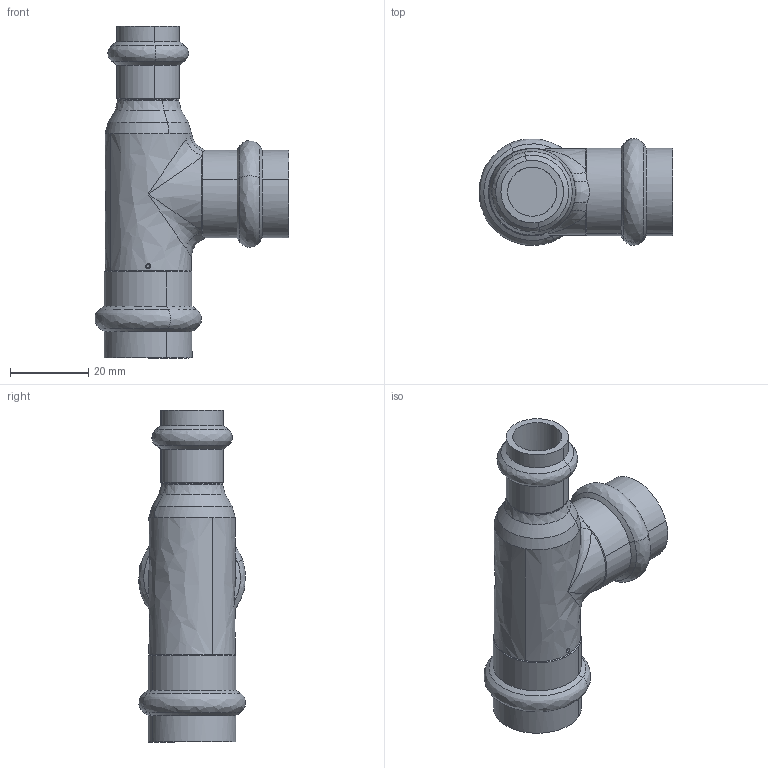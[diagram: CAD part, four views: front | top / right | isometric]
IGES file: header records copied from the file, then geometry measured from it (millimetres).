
Start section: 3D InterOp IGES (Version 25 0 1), Spatial Corp. Copyright (c) 1999-2007.
Global section: file name: pim0004516.igs; native system: Spatial Corp.; preprocessor: 3D InterOp ACIS/IGES; author: Cad-Pim; organization: TransMagic, Inc.; date: 20150430.084112; units: millimetre
Bounding box: 49.56 x 27.31 x 85 mm (x, y, z)
Volume: 26789.6 mm3; surface area: 12019.9 mm2
Topology: 1 solids, 1 shells, 75 faces, 199 edges, 127 vertices
Faces by surface type: bspline 35, cylinder 21, cone 19
